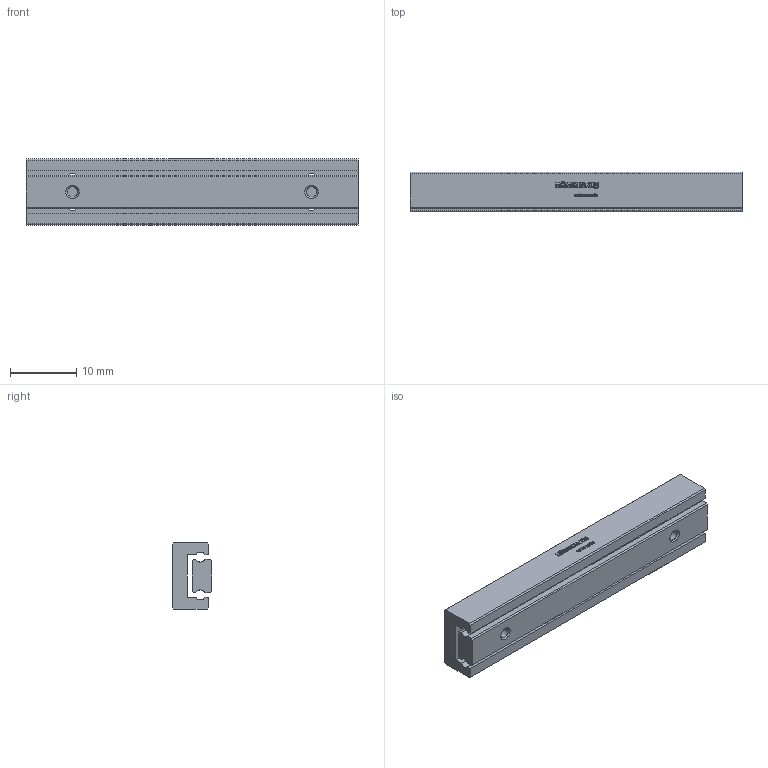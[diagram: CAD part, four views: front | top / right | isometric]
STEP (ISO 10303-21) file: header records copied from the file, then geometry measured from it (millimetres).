
FILE_DESCRIPTION(/* description */ ('STEP AP214'),/* implementation_level */ '2;1');
FILE_NAME(/* name */ 'NDN 1-50.40(0)',/* time_stamp */ '2025-04-16T17:10:35+02:00',/* author */ ('License CC BY-ND 4.0'),/* organization */ ('CADENAS'),/* preprocessor_version */ 'ST-DEVELOPER v19.3',/* originating_system */ 'PARTsolutions',/* authorisation */ ' ');
FILE_SCHEMA (('AUTOMOTIVE_DESIGN {1 0 10303 214 3 1 1}'));
Length unit declared in the file: millimetre
Products named in the file (3): NDN 1-50.40(0); NDN 1-50.40_1; NDN 1-50.40_2
Assembly tree (2 placements, depth 2):
  NDN 1-50.40(0)
    NDN 1-50.40_1
    NDN 1-50.40_2
Bounding box: 50 x 6 x 10 mm (x, y, z)
Volume: 2345.7 mm3; surface area: 2842.6 mm2
Topology: 2 solids, 2 shells, 511 faces, 1432 edges, 952 vertices
Faces by surface type: cylinder 302, plane 201, cone 8
Full cylindrical faces by diameter (mm): 1.567 x6
Entity records: 16723 total; most frequent: DIRECTION 3058, CARTESIAN_POINT 2884, ORIENTED_EDGE 2836, EDGE_CURVE 1418, AXIS2_PLACEMENT_3D 1126, VERTEX_POINT 952, LINE 806, VECTOR 806
